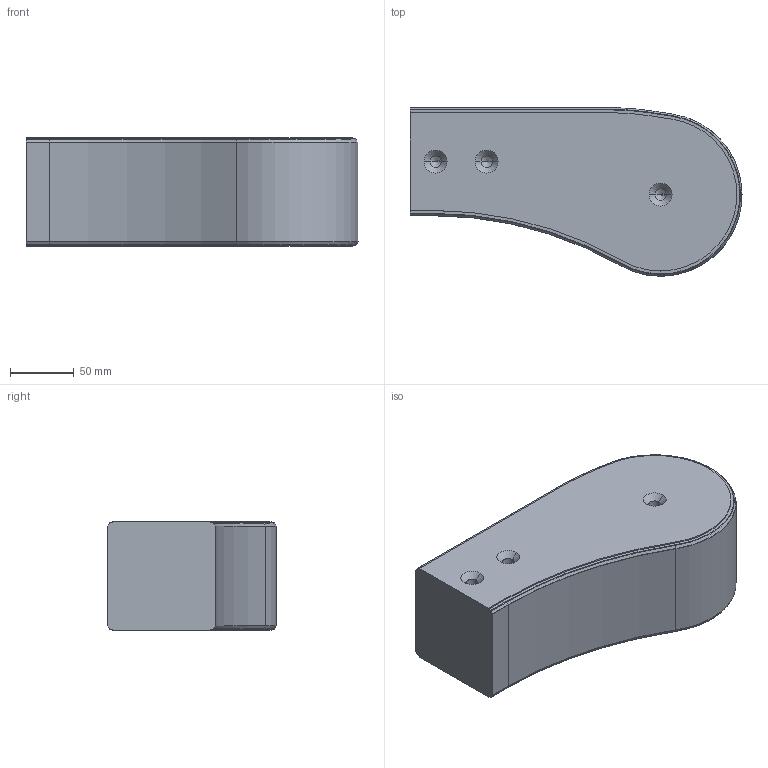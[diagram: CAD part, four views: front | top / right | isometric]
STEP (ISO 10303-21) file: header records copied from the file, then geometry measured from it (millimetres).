
FILE_DESCRIPTION (( 'STEP AP214' ), '1' );
FILE_NAME ('FMIE 260P.step', '2017-04-07T11:08:39', ( '' ), ( '' ), 'SwSTEP 2.0', 'SolidWorks 2016', '' );
FILE_SCHEMA (( 'AUTOMOTIVE_DESIGN' ));
Length unit declared in the file: millimetre
Products named in the file (1): FMIE 260P
Bounding box: 259.77 x 131.75 x 85 mm (x, y, z)
Volume: 2208954.9 mm3; surface area: 110618.6 mm2
Topology: 1 solids, 1 shells, 98 faces, 234 edges, 132 vertices
Faces by surface type: cylinder 35, cone 31, plane 20, torus 12
Entity records: 3257 total; most frequent: DIRECTION 526, CARTESIAN_POINT 453, ORIENTED_EDGE 444, EDGE_CURVE 222, AXIS2_PLACEMENT_3D 205, VERTEX_POINT 132, VECTOR 116, LINE 116
